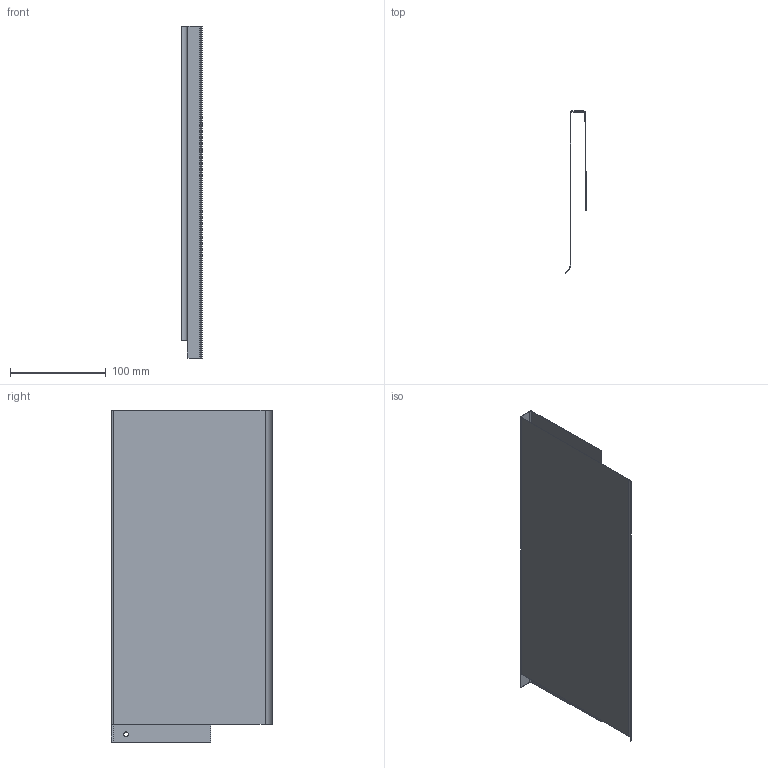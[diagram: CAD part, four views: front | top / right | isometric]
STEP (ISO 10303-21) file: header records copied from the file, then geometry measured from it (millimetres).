
FILE_DESCRIPTION (( 'STEP AP203' ), '1' );
FILE_NAME ('Nova Pro Duowing HRW H186 Deluxe rechts_NL350.step', '2014-02-14T12:18:37', ( 'test' ), ( '' ), 'SwSTEP 2.0', 'SolidWorks 2013', '' );
FILE_SCHEMA (( 'CONFIG_CONTROL_DESIGN' ));
Length unit declared in the file: millimetre
Products named in the file (1): Nova Pro Duowing HRW H186 Deluxe rechts_NL350
Bounding box: 21.82 x 169 x 347.5 mm (x, y, z)
Volume: 48495.8 mm3; surface area: 194626.6 mm2
Topology: 1 solids, 1 shells, 29 faces, 66 edges, 39 vertices
Faces by surface type: plane 20, cylinder 9
Entity records: 876 total; most frequent: CARTESIAN_POINT 147, DIRECTION 137, ORIENTED_EDGE 132, EDGE_CURVE 66, LINE 47, VECTOR 47, AXIS2_PLACEMENT_3D 45, VERTEX_POINT 39
